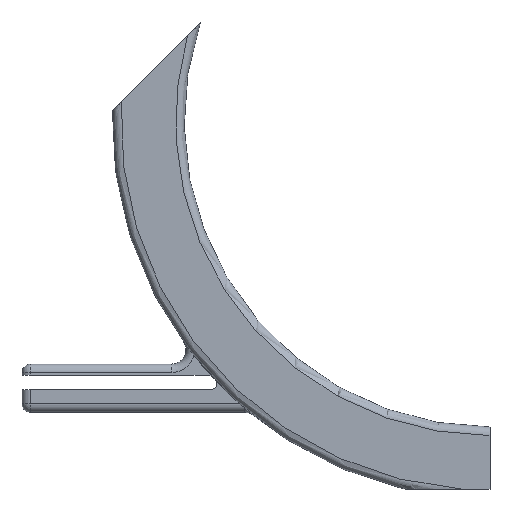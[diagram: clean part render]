
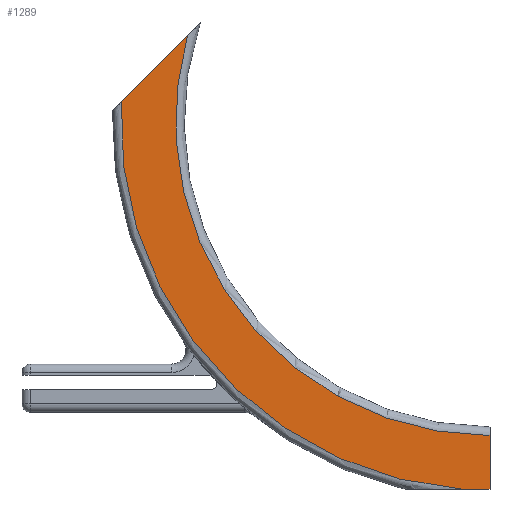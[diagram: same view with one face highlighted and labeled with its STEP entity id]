
A CAD part, left-side view. The second image highlights one B-rep face of the part: STEP entity #1289.
In plain terms, the highlighted planar face has unit normal (-1, 0, 0).
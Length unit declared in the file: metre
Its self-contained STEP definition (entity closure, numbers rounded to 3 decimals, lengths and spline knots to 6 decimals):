
#97=CIRCLE('',#1389,0.1105);
#98=CIRCLE('',#1390,0.129729);
#210=ORIENTED_EDGE('',*,*,#596,.F.);
#211=ORIENTED_EDGE('',*,*,#597,.T.);
#212=ORIENTED_EDGE('',*,*,#598,.T.);
#213=ORIENTED_EDGE('',*,*,#599,.T.);
#214=ORIENTED_EDGE('',*,*,#600,.T.);
#596=EDGE_CURVE('',#789,#790,#896,.T.);
#597=EDGE_CURVE('',#789,#791,#897,.T.);
#598=EDGE_CURVE('',#791,#792,#97,.T.);
#599=EDGE_CURVE('',#792,#793,#898,.T.);
#600=EDGE_CURVE('',#793,#790,#98,.F.);
#789=VERTEX_POINT('',#2070);
#790=VERTEX_POINT('',#2071);
#791=VERTEX_POINT('',#2073);
#792=VERTEX_POINT('',#2075);
#793=VERTEX_POINT('',#2077);
#896=LINE('',#2069,#983);
#897=LINE('',#2072,#984);
#898=LINE('',#2076,#985);
#983=VECTOR('',#1582,1.);
#984=VECTOR('',#1583,1.);
#985=VECTOR('',#1586,1.);
#1056=EDGE_LOOP('',(#210,#211,#212,#213,#214));
#1161=FACE_BOUND('',#1056,.T.);
#1263=PLANE('',#1388);
#1289=ADVANCED_FACE('',(#1161),#1263,.F.);
#1388=AXIS2_PLACEMENT_3D('',#2068,#1580,#1581);
#1389=AXIS2_PLACEMENT_3D('',#2074,#1584,#1585);
#1390=AXIS2_PLACEMENT_3D('',#2078,#1587,#1588);
#1580=DIRECTION('',(1.,0.,0.));
#1581=DIRECTION('',(0.,1.,0.));
#1582=DIRECTION('',(0.,1.,0.));
#1583=DIRECTION('',(0.,0.,1.));
#1584=DIRECTION('',(1.,0.,0.));
#1585=DIRECTION('',(0.,0.,-1.));
#1586=DIRECTION('',(0.,0.707,-0.707));
#1587=DIRECTION('',(1.,0.,0.));
#1588=DIRECTION('',(0.,0.,-1.));
#2068=CARTESIAN_POINT('',(-0.0185,-0.132369,0.045286));
#2069=CARTESIAN_POINT('',(-0.0185,-0.132369,-0.035));
#2070=CARTESIAN_POINT('',(-0.0185,-0.198734,-0.035));
#2071=CARTESIAN_POINT('',(-0.0185,-0.189016,-0.035));
#2072=CARTESIAN_POINT('',(-0.0185,-0.198734,-0.02575));
#2073=CARTESIAN_POINT('',(-0.0185,-0.198734,-0.016136));
#2074=CARTESIAN_POINT('',(-0.0185,-0.198734,0.094364));
#2075=CARTESIAN_POINT('',(-0.0185,-0.092389,0.124381));
#2076=CARTESIAN_POINT('',(-0.0185,-0.0815,0.113492));
#2077=CARTESIAN_POINT('',(-0.0185,-0.069184,0.101176));
#2078=CARTESIAN_POINT('',(-0.0185,-0.198734,0.094364));
